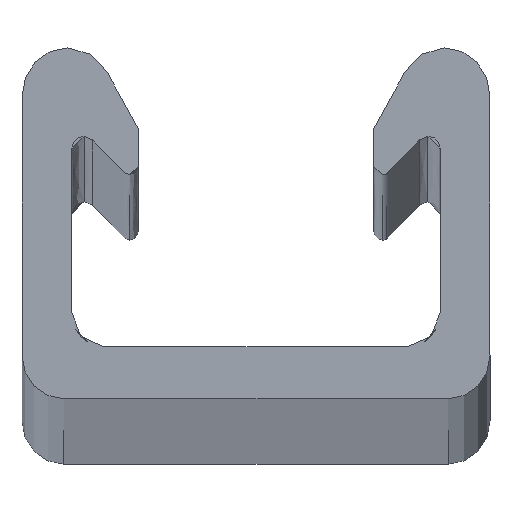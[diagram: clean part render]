
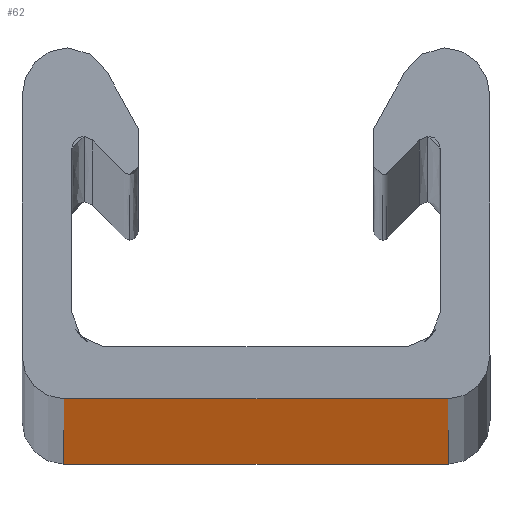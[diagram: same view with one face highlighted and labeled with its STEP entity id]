
A CAD part, top view. The second image highlights one B-rep face of the part: STEP entity #62.
In plain terms, the highlighted planar face has unit normal (0, -1, 0).
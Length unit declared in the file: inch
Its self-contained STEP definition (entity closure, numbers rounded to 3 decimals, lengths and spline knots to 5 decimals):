
#62=ADVANCED_FACE('',(#145),#146,.T.);
#145=FACE_OUTER_BOUND('',#260,.T.);
#146=PLANE('',#261);
#260=EDGE_LOOP('',(#503,#504,#505,#506));
#261=AXIS2_PLACEMENT_3D('',#507,#508,#509);
#503=ORIENTED_EDGE('',*,*,#748,.T.);
#504=ORIENTED_EDGE('',*,*,#749,.F.);
#505=ORIENTED_EDGE('',*,*,#750,.T.);
#506=ORIENTED_EDGE('',*,*,#751,.T.);
#507=CARTESIAN_POINT('',(0.75,-0.13935,0.0));
#508=DIRECTION('',(0.0,-1.0,0.0));
#509=DIRECTION('',(1.0,0.0,0.0));
#748=EDGE_CURVE('',#879,#880,#881,.T.);
#749=EDGE_CURVE('',#882,#880,#883,.T.);
#750=EDGE_CURVE('',#882,#884,#885,.T.);
#751=EDGE_CURVE('',#884,#879,#886,.T.);
#879=VERTEX_POINT('',#1076);
#880=VERTEX_POINT('',#1077);
#881=LINE('',#1078,#1079);
#882=VERTEX_POINT('',#1080);
#883=LINE('',#1081,#1082);
#884=VERTEX_POINT('',#1083);
#885=LINE('',#1084,#1085);
#886=LINE('',#1086,#1087);
#1076=CARTESIAN_POINT('',(1.36601,-0.13935,120.0));
#1077=CARTESIAN_POINT('',(0.13399,-0.13935,120.0));
#1078=CARTESIAN_POINT('',(0.13399,-0.13935,120.0));
#1079=VECTOR('',#1356,1.0);
#1080=CARTESIAN_POINT('',(0.13399,-0.13935,0.0));
#1081=CARTESIAN_POINT('',(0.13399,-0.13935,0.0));
#1082=VECTOR('',#1357,1.0);
#1083=CARTESIAN_POINT('',(1.36601,-0.13935,0.0));
#1084=CARTESIAN_POINT('',(0.13399,-0.13935,0.0));
#1085=VECTOR('',#1358,1.0);
#1086=CARTESIAN_POINT('',(1.36601,-0.13935,0.0));
#1087=VECTOR('',#1359,1.0);
#1356=DIRECTION('',(-1.0,-0.0,-0.0));
#1357=DIRECTION('',(0.0,0.0,1.0));
#1358=DIRECTION('',(1.0,0.0,0.0));
#1359=DIRECTION('',(0.0,0.0,1.0));
